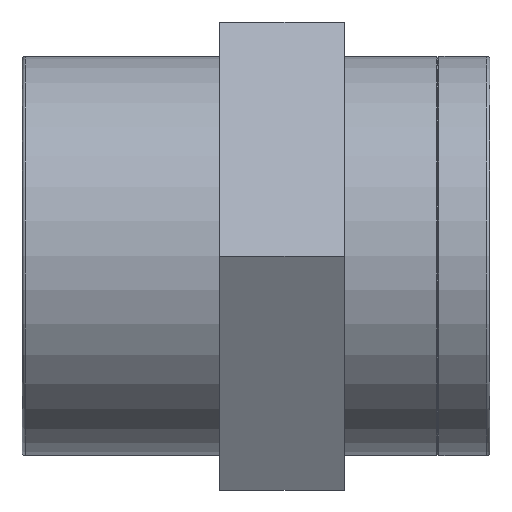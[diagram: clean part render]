
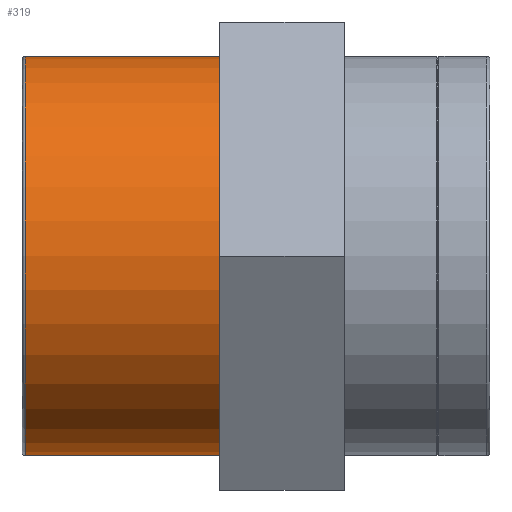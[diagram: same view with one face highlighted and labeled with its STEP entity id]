
A CAD part, top view. The second image highlights one B-rep face of the part: STEP entity #319.
In plain terms, the highlighted cylindrical face has radius 19.2 mm (diameter 38.4 mm), a full revolution.
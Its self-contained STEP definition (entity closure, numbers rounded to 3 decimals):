
#56=CYLINDRICAL_SURFACE('',#356,19.2);
#80=FACE_BOUND('',#132,.T.);
#98=FACE_OUTER_BOUND('',#131,.T.);
#131=EDGE_LOOP('',(#254));
#132=EDGE_LOOP('',(#255));
#165=CIRCLE('',#355,19.2);
#166=CIRCLE('',#357,19.2);
#182=VERTEX_POINT('',#509);
#183=VERTEX_POINT('',#512);
#211=EDGE_CURVE('',#182,#182,#165,.T.);
#212=EDGE_CURVE('',#183,#183,#166,.T.);
#254=ORIENTED_EDGE('',*,*,#212,.T.);
#255=ORIENTED_EDGE('',*,*,#211,.F.);
#319=ADVANCED_FACE('',(#98,#80),#56,.T.);
#355=AXIS2_PLACEMENT_3D('',#510,#417,#418);
#356=AXIS2_PLACEMENT_3D('',#511,#419,#420);
#357=AXIS2_PLACEMENT_3D('',#513,#421,#422);
#417=DIRECTION('center_axis',(-1.,0.,0.));
#418=DIRECTION('ref_axis',(0.,1.,0.));
#419=DIRECTION('center_axis',(-1.,0.,0.));
#420=DIRECTION('ref_axis',(0.,-1.,0.));
#421=DIRECTION('center_axis',(-1.,0.,0.));
#422=DIRECTION('ref_axis',(0.,0.,1.));
#509=CARTESIAN_POINT('',(-22.18,-19.2,0.));
#510=CARTESIAN_POINT('Origin',(-22.18,0.,0.));
#511=CARTESIAN_POINT('Origin',(-13.,0.,0.));
#512=CARTESIAN_POINT('',(-3.5,-19.2,0.));
#513=CARTESIAN_POINT('Origin',(-3.5,0.,0.));
